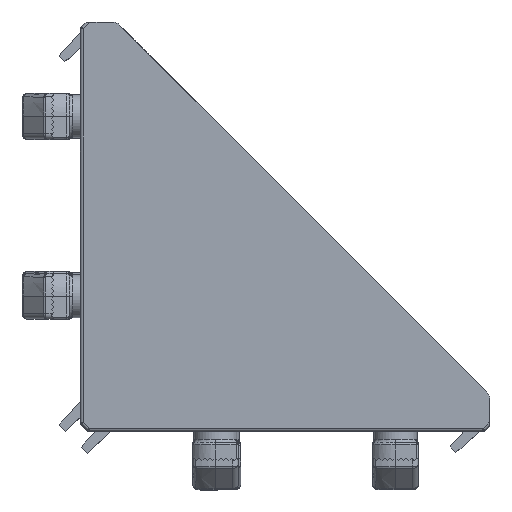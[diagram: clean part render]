
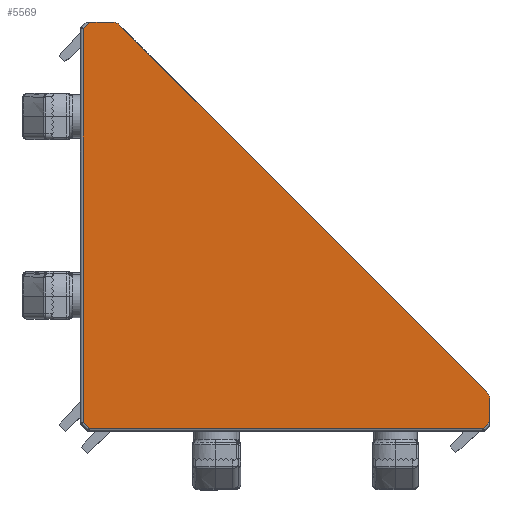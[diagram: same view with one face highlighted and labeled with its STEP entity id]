
A CAD part, top view. The second image highlights one B-rep face of the part: STEP entity #5569.
In plain terms, the highlighted planar face has unit normal (-0.012, -0.012, 1).
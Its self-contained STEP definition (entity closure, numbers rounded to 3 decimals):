
#1716 = CARTESIAN_POINT ( 'NONE',  ( 5.903, 76., 36.99 ) ) ;
#3220 = VECTOR ( 'NONE', #56744, 1000. ) ;
#3491 = DIRECTION ( 'NONE',  ( -1., 0., -0.012 ) ) ;
#5045 = DIRECTION ( 'NONE',  ( -0.012, -0.012, 1. ) ) ;
#5569 = ADVANCED_FACE ( 'NONE', ( #50591 ), #30345, .T. ) ;
#5932 = CARTESIAN_POINT ( 'NONE',  ( 7.329, 0.494, 36.075 ) ) ;
#6991 = CARTESIAN_POINT ( 'NONE',  ( 5.903, 76., 36.99 ) ) ;
#8116 = VECTOR ( 'NONE', #36214, 1000. ) ;
#10923 = LINE ( 'NONE', #23228, #43683 ) ;
#12736 = VERTEX_POINT ( 'NONE', #70334 ) ;
#14854 = CARTESIAN_POINT ( 'NONE',  ( 7.317, 75.414, 37. ) ) ;
#16965 = ORIENTED_EDGE ( 'NONE', *, *, #34170, .T. ) ;
#18675 = VERTEX_POINT ( 'NONE', #60856 ) ;
#20087 = EDGE_CURVE ( 'NONE', #12736, #47933, #32953, .T. ) ;
#20162 = CARTESIAN_POINT ( 'NONE',  ( 0.494, 1.615, 36.005 ) ) ;
#20967 = EDGE_CURVE ( 'NONE', #81446, #79740, #79013, .T. ) ;
#21013 = VECTOR ( 'NONE', #3491, 1000. ) ;
#21134 = CARTESIAN_POINT ( 'NONE',  ( 1.754, 76., 36.939 ) ) ;
#21684 = CARTESIAN_POINT ( 'NONE',  ( 75.794, 6.937, 37. ) ) ;
#23228 = CARTESIAN_POINT ( 'NONE',  ( 76., 1.754, 36.939 ) ) ;
#25109 =( BOUNDED_CURVE ( )  B_SPLINE_CURVE ( 3, ( #65361, #39300, #39861, #1716 ),
 .UNSPECIFIED., .F., .F. ) 
 B_SPLINE_CURVE_WITH_KNOTS ( ( 4, 4 ),
 ( 0., 0.785 ),
 .UNSPECIFIED. ) 
 CURVE ( )  GEOMETRIC_REPRESENTATION_ITEM ( )  RATIONAL_B_SPLINE_CURVE ( ( 1., 0.949, 0.949, 1. ) ) 
 REPRESENTATION_ITEM ( '' )  );
#26517 = DIRECTION ( 'NONE',  ( 0.707, -0.707, 0. ) ) ;
#28934 = VECTOR ( 'NONE', #26517, 1000. ) ;
#29765 = CARTESIAN_POINT ( 'NONE',  ( 0.494, 74.74, 36.907 ) ) ;
#30345 = PLANE ( 'NONE',  #41851 ) ;
#32953 =( BOUNDED_CURVE ( )  B_SPLINE_CURVE ( 3, ( #66448, #21684, #72907, #34508 ),
 .UNSPECIFIED., .F., .F. ) 
 B_SPLINE_CURVE_WITH_KNOTS ( ( 4, 4 ),
 ( 0., 0.785 ),
 .UNSPECIFIED. ) 
 CURVE ( )  GEOMETRIC_REPRESENTATION_ITEM ( )  RATIONAL_B_SPLINE_CURVE ( ( 1., 0.949, 0.949, 1. ) ) 
 REPRESENTATION_ITEM ( '' )  );
#32979 = ORIENTED_EDGE ( 'NONE', *, *, #70373, .T. ) ;
#34170 = EDGE_CURVE ( 'NONE', #54186, #18675, #56152, .T. ) ;
#34508 = CARTESIAN_POINT ( 'NONE',  ( 76., 5.903, 36.99 ) ) ;
#35086 = CARTESIAN_POINT ( 'NONE',  ( 76., 1.754, 36.939 ) ) ;
#35937 = ORIENTED_EDGE ( 'NONE', *, *, #66309, .T. ) ;
#36214 = DIRECTION ( 'NONE',  ( 0., -1., -0.012 ) ) ;
#36780 = CARTESIAN_POINT ( 'NONE',  ( 7.317, 75.414, 37. ) ) ;
#37993 = ORIENTED_EDGE ( 'NONE', *, *, #82856, .T. ) ;
#39300 = CARTESIAN_POINT ( 'NONE',  ( 6.937, 75.794, 37. ) ) ;
#39861 = CARTESIAN_POINT ( 'NONE',  ( 6.441, 76., 36.996 ) ) ;
#40019 = ORIENTED_EDGE ( 'NONE', *, *, #76075, .T. ) ;
#40243 = ORIENTED_EDGE ( 'NONE', *, *, #48230, .T. ) ;
#40357 = VERTEX_POINT ( 'NONE', #6991 ) ;
#40537 = EDGE_CURVE ( 'NONE', #79740, #80478, #76100, .T. ) ;
#41851 = AXIS2_PLACEMENT_3D ( 'NONE', #36780, #5045, #50778 ) ;
#43441 = LINE ( 'NONE', #65496, #77492 ) ;
#43487 = CARTESIAN_POINT ( 'NONE',  ( 7.317, 75.414, 37. ) ) ;
#43683 = VECTOR ( 'NONE', #61563, 1000. ) ;
#45952 = LINE ( 'NONE', #20162, #28934 ) ;
#46383 = ORIENTED_EDGE ( 'NONE', *, *, #20087, .F. ) ;
#47027 = VERTEX_POINT ( 'NONE', #35086 ) ;
#47626 = ORIENTED_EDGE ( 'NONE', *, *, #60895, .T. ) ;
#47933 = VERTEX_POINT ( 'NONE', #64103 ) ;
#48230 = EDGE_CURVE ( 'NONE', #47027, #47933, #10923, .T. ) ;
#50591 = FACE_OUTER_BOUND ( 'NONE', #80308, .T. ) ;
#50778 = DIRECTION ( 'NONE',  ( 1., 0., 0.012 ) ) ;
#51429 = LINE ( 'NONE', #14854, #66487 ) ;
#54186 = VERTEX_POINT ( 'NONE', #74715 ) ;
#56152 = LINE ( 'NONE', #5932, #3220 ) ;
#56744 = DIRECTION ( 'NONE',  ( 1., 0., 0.012 ) ) ;
#58988 = DIRECTION ( 'NONE',  ( -0.707, -0.707, -0.017 ) ) ;
#60165 = DIRECTION ( 'NONE',  ( 0.707, 0.707, 0.017 ) ) ;
#60856 = CARTESIAN_POINT ( 'NONE',  ( 74.74, 0.494, 36.907 ) ) ;
#60895 = EDGE_CURVE ( 'NONE', #80478, #54186, #45952, .T. ) ;
#61563 = DIRECTION ( 'NONE',  ( 0., 1., 0.012 ) ) ;
#62023 = VECTOR ( 'NONE', #58988, 1000. ) ;
#63566 = CARTESIAN_POINT ( 'NONE',  ( 0.494, 1.615, 36.005 ) ) ;
#64103 = CARTESIAN_POINT ( 'NONE',  ( 76., 5.903, 36.99 ) ) ;
#65361 = CARTESIAN_POINT ( 'NONE',  ( 7.317, 75.414, 37. ) ) ;
#65496 = CARTESIAN_POINT ( 'NONE',  ( 74.74, 0.494, 36.907 ) ) ;
#66309 = EDGE_CURVE ( 'NONE', #18675, #47027, #43441, .T. ) ;
#66448 = CARTESIAN_POINT ( 'NONE',  ( 75.414, 7.317, 37. ) ) ;
#66487 = VECTOR ( 'NONE', #72178, 1000. ) ;
#70334 = CARTESIAN_POINT ( 'NONE',  ( 75.414, 7.317, 37. ) ) ;
#70373 = EDGE_CURVE ( 'NONE', #40357, #81446, #72098, .T. ) ;
#71620 = CARTESIAN_POINT ( 'NONE',  ( 1.754, 76., 36.939 ) ) ;
#72098 = LINE ( 'NONE', #79713, #21013 ) ;
#72112 = VERTEX_POINT ( 'NONE', #43487 ) ;
#72178 = DIRECTION ( 'NONE',  ( -0.707, 0.707, 0. ) ) ;
#72907 = CARTESIAN_POINT ( 'NONE',  ( 76., 6.441, 36.996 ) ) ;
#74715 = CARTESIAN_POINT ( 'NONE',  ( 1.615, 0.494, 36.005 ) ) ;
#76075 = EDGE_CURVE ( 'NONE', #12736, #72112, #51429, .T. ) ;
#76100 = LINE ( 'NONE', #29765, #8116 ) ;
#77331 = ORIENTED_EDGE ( 'NONE', *, *, #40537, .T. ) ;
#77492 = VECTOR ( 'NONE', #60165, 1000. ) ;
#79013 = LINE ( 'NONE', #71620, #62023 ) ;
#79713 = CARTESIAN_POINT ( 'NONE',  ( 5.903, 76., 36.99 ) ) ;
#79740 = VERTEX_POINT ( 'NONE', #81494 ) ;
#80308 = EDGE_LOOP ( 'NONE', ( #82807, #77331, #47626, #16965, #35937, #40243, #46383, #40019, #37993, #32979 ) ) ;
#80478 = VERTEX_POINT ( 'NONE', #63566 ) ;
#81446 = VERTEX_POINT ( 'NONE', #21134 ) ;
#81494 = CARTESIAN_POINT ( 'NONE',  ( 0.494, 74.74, 36.907 ) ) ;
#82807 = ORIENTED_EDGE ( 'NONE', *, *, #20967, .T. ) ;
#82856 = EDGE_CURVE ( 'NONE', #72112, #40357, #25109, .T. ) ;
